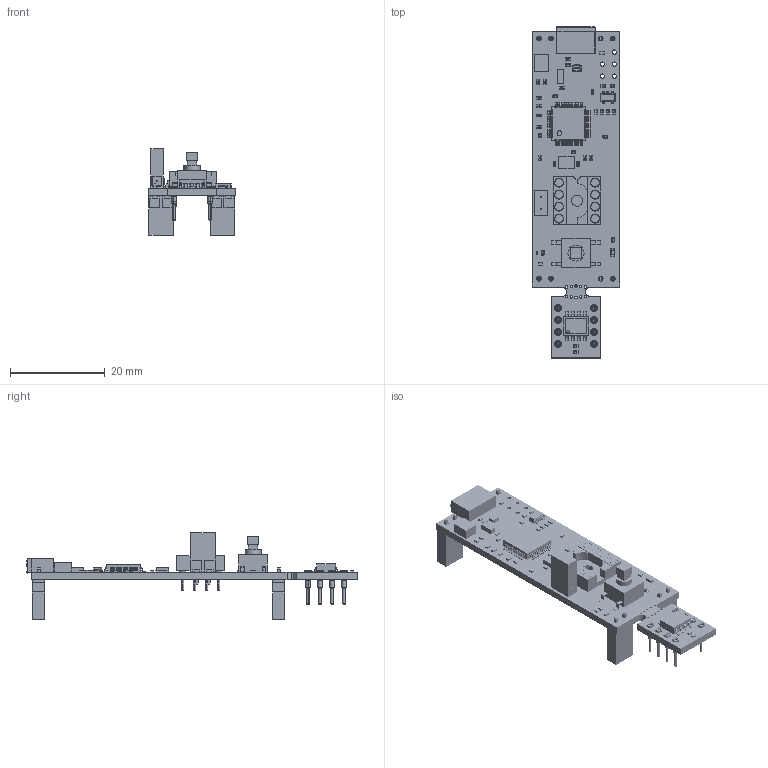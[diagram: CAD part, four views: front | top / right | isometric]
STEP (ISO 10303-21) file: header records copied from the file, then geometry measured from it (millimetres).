
FILE_DESCRIPTION(('Open CASCADE Model'),'2;1');
FILE_NAME('Open CASCADE Shape Model','2019-06-25T09:58:47',('Author'),( 'Open CASCADE'),'Open CASCADE STEP processor 6.8','Open CASCADE 6.8' ,'Unknown');
FILE_SCHEMA(('AUTOMOTIVE_DESIGN { 1 0 10303 214 1 1 1 1 }'));
Length unit declared in the file: millimetre
Products named in the file (120): PCB; Board; R8; R0402; 6123187520; Extruded; R7; R5; R2; Q1; 6123187328; CN7; TSW-102-07-G-S; _TSW-102-07-G-S_body; _T-1S6-07-TSW-1-07-2-S; 6123185024; CN5; CN8; CN6; M1; M2; CN4; h3192-05_asm_RGB8421504; H3159-XX; Y3198; B1; 6123189440; 6123189248; 6123189056; 6123188864; 6123188672; 6123188480; 6123188096; Cylinder; C14; C0402; C13; 6123185408; C7; C4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
Assembly tree (245 placements, depth 4):
  PCB
    Board
    R8
      R0402
      6123187520
        Extruded
    R7
      R0402
      6123187520
        Extruded
    R5
      R0402
      6123187520
        Extruded
    R2
      R0402
      6123187520
        Extruded
    Q1
      6123187328
        Extruded
    CN7
      TSW-102-07-G-S
        _TSW-102-07-G-S_body
        _T-1S6-07-TSW-1-07-2-S
      6123185024
        Extruded
    CN5
      TSW-102-07-G-S
        _TSW-102-07-G-S_body
        _T-1S6-07-TSW-1-07-2-S
      6123185024
        Extruded
    CN8
      TSW-102-07-G-S
        _TSW-102-07-G-S_body
        _T-1S6-07-TSW-1-07-2-S
      6123185024
        Extruded
    CN6
      TSW-102-07-G-S
        _TSW-102-07-G-S_body
        _T-1S6-07-TSW-1-07-2-S
      6123185024
        Extruded
    M1
      6123187520
        Extruded
    M2
      6123187520
        Extruded
    CN4
      h3192-05_asm_RGB8421504  x8
        H3159-XX
        Y3198
    B1
      6123189440
        Extruded
      6123189248
        Extruded
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Bounding box: 18.54 x 70.15 x 18.36 mm (x, y, z)
Volume: 3484.5 mm3; surface area: 6659.2 mm2
Topology: 209 solids, 210 shells, 10302 faces, 24132 edges, 13515 vertices
Faces by surface type: cylinder 3602, plane 3304, bspline 2298, sphere 762, torus 126, revolution 120, cone 90
Full cylindrical faces by diameter (mm): 0.5 x10, 0.9 x7, 1 x18, 1.55 x8, 3.4 x1
Entity records: 73840 total; most frequent: CARTESIAN_POINT 18432, ORIENTED_EDGE 9638, DIRECTION 9478, EDGE_CURVE 4820, LINE 3266, VECTOR 3266, AXIS2_PLACEMENT_3D 3102, VERTEX_POINT 3063
